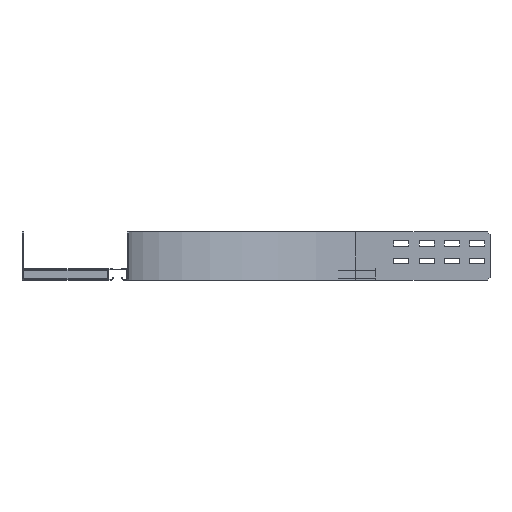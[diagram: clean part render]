
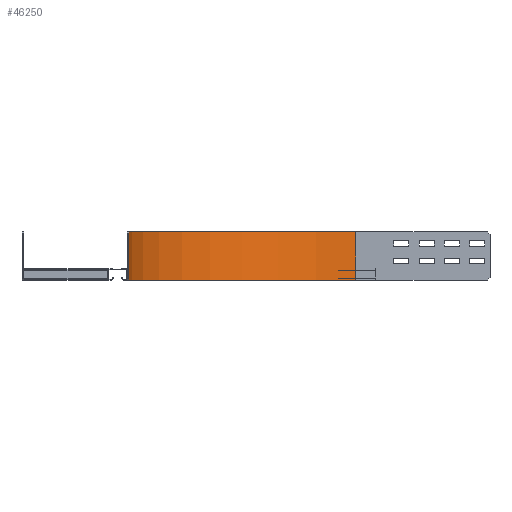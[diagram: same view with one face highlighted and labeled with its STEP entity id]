
A CAD part, left-side view. The second image highlights one B-rep face of the part: STEP entity #46250.
In plain terms, the highlighted cylindrical face has radius 447 mm (diameter 894 mm), a partial arc.
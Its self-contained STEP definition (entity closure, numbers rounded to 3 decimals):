
#24300=CARTESIAN_POINT('',(447.,-450.,-50.));
#24310=VERTEX_POINT('',#24300);
#24340=CARTESIAN_POINT('',(0.,-450.,-50.));
#24350=DIRECTION('',(0.,0.,1.));
#24360=DIRECTION('',(1.,0.,0.));
#24370=AXIS2_PLACEMENT_3D('',#24340,#24350,#24360);
#24380=CIRCLE('',#24370,447.);
#24390=CARTESIAN_POINT('',(0.,-3.,-50.));
#24400=VERTEX_POINT('',#24390);
#24410=EDGE_CURVE('',#24310,#24400,#24380,.T.);
#27810=CARTESIAN_POINT('',(0.,-3.,-145.));
#27820=VERTEX_POINT('',#27810);
#27850=CARTESIAN_POINT('',(0.,-450.,-145.));
#27860=DIRECTION('',(0.,0.,1.));
#27870=DIRECTION('',(1.,0.,0.));
#27880=AXIS2_PLACEMENT_3D('',#27850,#27860,#27870);
#27890=CIRCLE('',#27880,447.);
#27900=CARTESIAN_POINT('',(447.,-450.,-145.));
#27910=VERTEX_POINT('',#27900);
#27920=EDGE_CURVE('',#27910,#27820,#27890,.T.);
#31930=CARTESIAN_POINT('',(447.,-450.,0.));
#31940=DIRECTION('',(0.,0.,1.));
#31950=VECTOR('',#31940,1.);
#31960=LINE('',#31930,#31950);
#31970=EDGE_CURVE('',#27910,#24310,#31960,.T.);
#37630=CARTESIAN_POINT('',(0.,-3.,0.));
#37640=DIRECTION('',(0.,0.,1.));
#37650=VECTOR('',#37640,1.);
#37660=LINE('',#37630,#37650);
#37670=EDGE_CURVE('',#27820,#24400,#37660,.T.);
#46140=CARTESIAN_POINT('',(0.,-450.,0.));
#46150=DIRECTION('',(0.,0.,1.));
#46160=DIRECTION('',(1.,0.,0.));
#46170=AXIS2_PLACEMENT_3D('',#46140,#46150,#46160);
#46180=CYLINDRICAL_SURFACE('',#46170,447.);
#46190=ORIENTED_EDGE('',*,*,#24410,.T.);
#46200=ORIENTED_EDGE('',*,*,#31970,.T.);
#46210=ORIENTED_EDGE('',*,*,#27920,.F.);
#46220=ORIENTED_EDGE('',*,*,#37670,.F.);
#46230=EDGE_LOOP('',(#46220,#46210,#46200,#46190));
#46240=FACE_OUTER_BOUND('',#46230,.T.);
#46250=ADVANCED_FACE('',(#46240),#46180,.F.);
